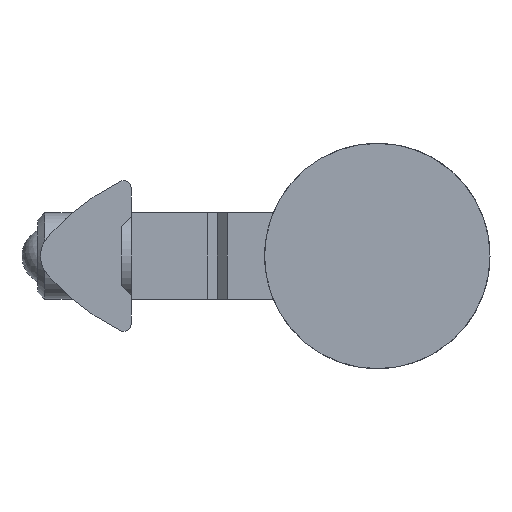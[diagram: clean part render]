
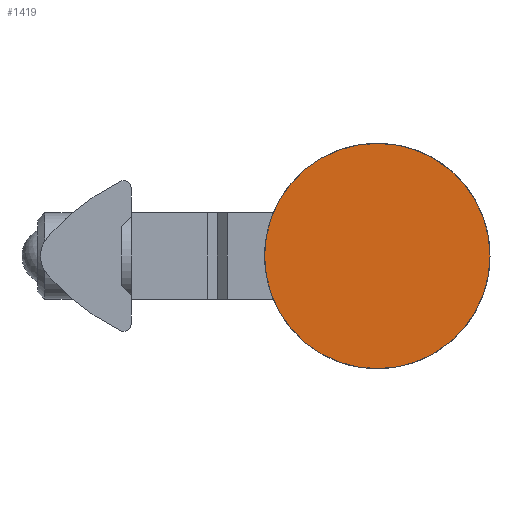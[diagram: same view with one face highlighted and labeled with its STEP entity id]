
A CAD part, front view. The second image highlights one B-rep face of the part: STEP entity #1419.
In plain terms, the highlighted planar face has unit normal (0, -1, 0).
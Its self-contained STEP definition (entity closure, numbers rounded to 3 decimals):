
#107 = DIRECTION ( 'NONE',  ( 1., 0., 0. ) ) ;
#654 = VERTEX_POINT ( 'NONE', #2839 ) ;
#682 = FACE_OUTER_BOUND ( 'NONE', #2690, .T. ) ;
#695 = ORIENTED_EDGE ( 'NONE', *, *, #2912, .T. ) ;
#743 = CARTESIAN_POINT ( 'NONE',  ( 0., 0., 0. ) ) ;
#1022 = DIRECTION ( 'NONE',  ( 0., -1., 0. ) ) ;
#1270 = ORIENTED_EDGE ( 'NONE', *, *, #2363, .T. ) ;
#1329 = CARTESIAN_POINT ( 'NONE',  ( 0., 0., 7.85 ) ) ;
#1419 = ADVANCED_FACE ( 'NONE', ( #682 ), #1444, .F. ) ;
#1444 = PLANE ( 'NONE',  #2932 ) ;
#1658 = CARTESIAN_POINT ( 'NONE',  ( 0., 0., 0. ) ) ;
#1899 = AXIS2_PLACEMENT_3D ( 'NONE', #1658, #1939, #2405 ) ;
#1939 = DIRECTION ( 'NONE',  ( 0., -1., 0. ) ) ;
#1990 = DIRECTION ( 'NONE',  ( 0., 1., 0. ) ) ;
#2363 = EDGE_CURVE ( 'NONE', #3391, #654, #2535, .T. ) ;
#2405 = DIRECTION ( 'NONE',  ( 0., 0., -1. ) ) ;
#2535 = CIRCLE ( 'NONE', #2865, 7.85 ) ;
#2643 = DIRECTION ( 'NONE',  ( 0., 0., -1. ) ) ;
#2690 = EDGE_LOOP ( 'NONE', ( #695, #1270 ) ) ;
#2839 = CARTESIAN_POINT ( 'NONE',  ( 0., 0., -7.85 ) ) ;
#2865 = AXIS2_PLACEMENT_3D ( 'NONE', #743, #1022, #2643 ) ;
#2912 = EDGE_CURVE ( 'NONE', #654, #3391, #3344, .T. ) ;
#2932 = AXIS2_PLACEMENT_3D ( 'NONE', #3015, #1990, #107 ) ;
#3015 = CARTESIAN_POINT ( 'NONE',  ( 7.85, 0., 0. ) ) ;
#3344 = CIRCLE ( 'NONE', #1899, 7.85 ) ;
#3391 = VERTEX_POINT ( 'NONE', #1329 ) ;
